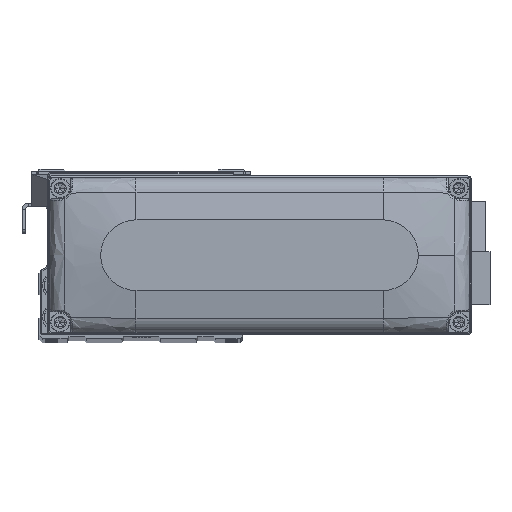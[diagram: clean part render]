
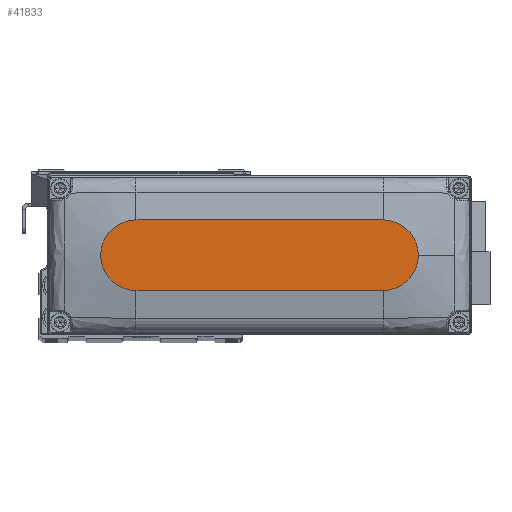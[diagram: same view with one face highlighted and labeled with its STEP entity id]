
A CAD part, top view. The second image highlights one B-rep face of the part: STEP entity #41833.
In plain terms, the highlighted planar face has unit normal (0, 0, 1).
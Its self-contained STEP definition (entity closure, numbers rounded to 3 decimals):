
#328 = DIRECTION ( 'NONE',  ( 1., 0., 0. ) ) ;
#896 = DIRECTION ( 'NONE',  ( -1., 0., 0. ) ) ;
#1268 = DIRECTION ( 'NONE',  ( 0., 0., 1. ) ) ;
#1662 = CIRCLE ( 'NONE', #26579, 10. ) ;
#2102 = CARTESIAN_POINT ( 'NONE',  ( 35., -10., 28. ) ) ;
#3223 = VECTOR ( 'NONE', #6883, 1000. ) ;
#3429 = CARTESIAN_POINT ( 'NONE',  ( 0., 0., 28. ) ) ;
#3867 = DIRECTION ( 'NONE',  ( 0., 0., 1. ) ) ;
#4993 = ORIENTED_EDGE ( 'NONE', *, *, #20507, .T. ) ;
#6678 = EDGE_CURVE ( 'NONE', #32539, #42669, #15794, .T. ) ;
#6883 = DIRECTION ( 'NONE',  ( 1., 0., 0. ) ) ;
#8185 = EDGE_CURVE ( 'NONE', #13662, #32539, #1662, .T. ) ;
#9248 = ORIENTED_EDGE ( 'NONE', *, *, #27964, .T. ) ;
#10290 = AXIS2_PLACEMENT_3D ( 'NONE', #3429, #17046, #30630 ) ;
#13662 = VERTEX_POINT ( 'NONE', #2102 ) ;
#14875 = DIRECTION ( 'NONE',  ( 1., 0., 0. ) ) ;
#15794 = CIRCLE ( 'NONE', #40716, 10. ) ;
#17046 = DIRECTION ( 'NONE',  ( 0., 0., 1. ) ) ;
#17302 = CARTESIAN_POINT ( 'NONE',  ( 35., 0., 28. ) ) ;
#17485 = DIRECTION ( 'NONE',  ( 1., 0., 0. ) ) ;
#17865 = LINE ( 'NONE', #31447, #24274 ) ;
#20396 = FACE_OUTER_BOUND ( 'NONE', #29587, .T. ) ;
#20507 = EDGE_CURVE ( 'NONE', #42669, #39297, #17865, .T. ) ;
#20706 = AXIS2_PLACEMENT_3D ( 'NONE', #34403, #3867, #17485 ) ;
#23832 = LINE ( 'NONE', #37421, #3223 ) ;
#24041 = CARTESIAN_POINT ( 'NONE',  ( -35., -10., 28. ) ) ;
#24274 = VECTOR ( 'NONE', #896, 1000. ) ;
#25210 = ORIENTED_EDGE ( 'NONE', *, *, #8185, .T. ) ;
#26579 = AXIS2_PLACEMENT_3D ( 'NONE', #31824, #1268, #14875 ) ;
#27201 = ORIENTED_EDGE ( 'NONE', *, *, #32559, .T. ) ;
#27964 = EDGE_CURVE ( 'NONE', #39297, #28322, #39893, .T. ) ;
#28322 = VERTEX_POINT ( 'NONE', #24041 ) ;
#29587 = EDGE_LOOP ( 'NONE', ( #4993, #9248, #27201, #25210, #37612 ) ) ;
#29636 = CARTESIAN_POINT ( 'NONE',  ( 35., 10., 28. ) ) ;
#30630 = DIRECTION ( 'NONE',  ( 1., 0., 0. ) ) ;
#30890 = DIRECTION ( 'NONE',  ( 0., 0., 1. ) ) ;
#31447 = CARTESIAN_POINT ( 'NONE',  ( -35., 10., 28. ) ) ;
#31824 = CARTESIAN_POINT ( 'NONE',  ( 35., 0., 28. ) ) ;
#32539 = VERTEX_POINT ( 'NONE', #37196 ) ;
#32559 = EDGE_CURVE ( 'NONE', #28322, #13662, #23832, .T. ) ;
#33972 = PLANE ( 'NONE',  #10290 ) ;
#34403 = CARTESIAN_POINT ( 'NONE',  ( -35., 0., 28. ) ) ;
#37196 = CARTESIAN_POINT ( 'NONE',  ( 45., 0., 28. ) ) ;
#37421 = CARTESIAN_POINT ( 'NONE',  ( -35., -10., 28. ) ) ;
#37612 = ORIENTED_EDGE ( 'NONE', *, *, #6678, .T. ) ;
#39297 = VERTEX_POINT ( 'NONE', #43762 ) ;
#39893 = CIRCLE ( 'NONE', #20706, 10. ) ;
#40716 = AXIS2_PLACEMENT_3D ( 'NONE', #17302, #30890, #328 ) ;
#41833 = ADVANCED_FACE ( 'NONE', ( #20396 ), #33972, .T. ) ;
#42669 = VERTEX_POINT ( 'NONE', #29636 ) ;
#43762 = CARTESIAN_POINT ( 'NONE',  ( -35., 10., 28. ) ) ;
